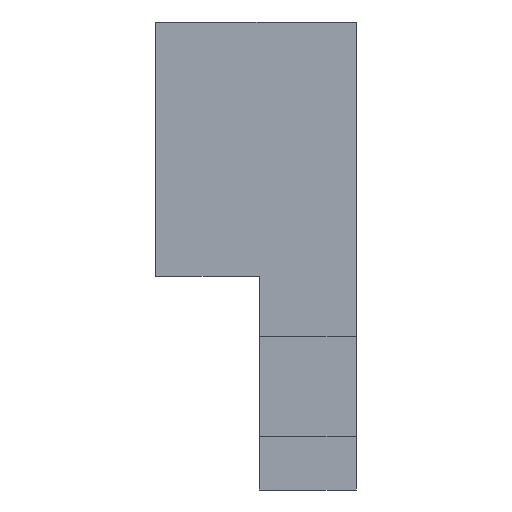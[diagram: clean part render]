
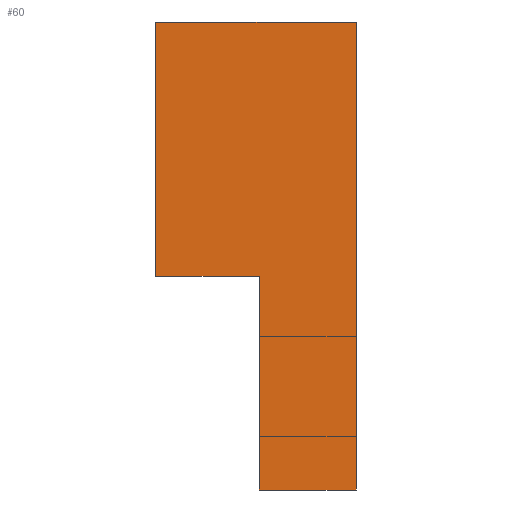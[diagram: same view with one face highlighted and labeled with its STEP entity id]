
A CAD part, left-side view. The second image highlights one B-rep face of the part: STEP entity #60.
In plain terms, the highlighted planar face has unit normal (-1, 0, 0).
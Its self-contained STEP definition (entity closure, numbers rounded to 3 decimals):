
#60=ADVANCED_FACE('',(#92),#1152,.T.);
#92=FACE_OUTER_BOUND('',#128,.T.);
#128=EDGE_LOOP('',(#237,#238,#239,#240,#241,#242));
#237=ORIENTED_EDGE('',*,*,#831,.T.);
#238=ORIENTED_EDGE('',*,*,#832,.T.);
#239=ORIENTED_EDGE('',*,*,#833,.T.);
#240=ORIENTED_EDGE('',*,*,#834,.T.);
#241=ORIENTED_EDGE('',*,*,#835,.T.);
#242=ORIENTED_EDGE('',*,*,#836,.T.);
#453=PCURVE('',#1152,#621);
#454=PCURVE('',#1152,#622);
#455=PCURVE('',#1152,#623);
#456=PCURVE('',#1152,#624);
#457=PCURVE('',#1152,#625);
#458=PCURVE('',#1152,#626);
#460=PCURVE('',#1153,#628);
#464=PCURVE('',#1154,#632);
#477=PCURVE('',#1155,#645);
#481=PCURVE('',#1156,#649);
#485=PCURVE('',#1157,#653);
#496=PCURVE('',#1158,#664);
#621=DEFINITIONAL_REPRESENTATION('',(#982),#2126);
#622=DEFINITIONAL_REPRESENTATION('',(#984),#2126);
#623=DEFINITIONAL_REPRESENTATION('',(#986),#2126);
#624=DEFINITIONAL_REPRESENTATION('',(#988),#2126);
#625=DEFINITIONAL_REPRESENTATION('',(#990),#2126);
#626=DEFINITIONAL_REPRESENTATION('',(#992),#2126);
#628=DEFINITIONAL_REPRESENTATION('',(#995),#2126);
#632=DEFINITIONAL_REPRESENTATION('',(#1000),#2126);
#645=DEFINITIONAL_REPRESENTATION('',(#1014),#2126);
#649=DEFINITIONAL_REPRESENTATION('',(#1020),#2126);
#653=DEFINITIONAL_REPRESENTATION('',(#1025),#2126);
#664=DEFINITIONAL_REPRESENTATION('',(#1036),#2126);
#747=SURFACE_CURVE('',#981,(#453,#481),.PCURVE_S1.);
#748=SURFACE_CURVE('',#983,(#454,#485),.PCURVE_S1.);
#749=SURFACE_CURVE('',#985,(#455,#477),.PCURVE_S1.);
#750=SURFACE_CURVE('',#987,(#456,#464),.PCURVE_S1.);
#751=SURFACE_CURVE('',#989,(#457,#460),.PCURVE_S1.);
#752=SURFACE_CURVE('',#991,(#458,#496),.PCURVE_S1.);
#831=EDGE_CURVE('',#1105,#1106,#747,.T.);
#832=EDGE_CURVE('',#1106,#1107,#748,.T.);
#833=EDGE_CURVE('',#1107,#1108,#749,.T.);
#834=EDGE_CURVE('',#1108,#1109,#750,.T.);
#835=EDGE_CURVE('',#1109,#1110,#751,.T.);
#836=EDGE_CURVE('',#1110,#1105,#752,.T.);
#981=B_SPLINE_CURVE_WITH_KNOTS('',1,(#1795,#1796),.UNSPECIFIED.,.F.,.F.,
(2,2),(-46.4,-43.3),.UNSPECIFIED.);
#982=B_SPLINE_CURVE_WITH_KNOTS('',1,(#1797,#1798),.UNSPECIFIED.,.F.,.F.,
(2,2),(-46.4,-43.3),.UNSPECIFIED.);
#983=B_SPLINE_CURVE_WITH_KNOTS('',1,(#1799,#1800),.UNSPECIFIED.,.F.,.F.,
(2,2),(-43.3,-36.9),.UNSPECIFIED.);
#984=B_SPLINE_CURVE_WITH_KNOTS('',1,(#1801,#1802),.UNSPECIFIED.,.F.,.F.,
(2,2),(-43.3,-36.9),.UNSPECIFIED.);
#985=B_SPLINE_CURVE_WITH_KNOTS('',1,(#1803,#1804),.UNSPECIFIED.,.F.,.F.,
(2,2),(-36.9,-34.),.UNSPECIFIED.);
#986=B_SPLINE_CURVE_WITH_KNOTS('',1,(#1805,#1806),.UNSPECIFIED.,.F.,.F.,
(2,2),(-36.9,-34.),.UNSPECIFIED.);
#987=B_SPLINE_CURVE_WITH_KNOTS('',1,(#1807,#1808),.UNSPECIFIED.,.F.,.F.,
(2,2),(-34.,-20.),.UNSPECIFIED.);
#988=B_SPLINE_CURVE_WITH_KNOTS('',1,(#1809,#1810),.UNSPECIFIED.,.F.,.F.,
(2,2),(-34.,-20.),.UNSPECIFIED.);
#989=B_SPLINE_CURVE_WITH_KNOTS('',1,(#1811,#1812),.UNSPECIFIED.,.F.,.F.,
(2,2),(-20.,-14.),.UNSPECIFIED.);
#990=B_SPLINE_CURVE_WITH_KNOTS('',1,(#1813,#1814),.UNSPECIFIED.,.F.,.F.,
(2,2),(-20.,-14.),.UNSPECIFIED.);
#991=B_SPLINE_CURVE_WITH_KNOTS('',1,(#1815,#1816),.UNSPECIFIED.,.F.,.F.,
(2,2),(-14.,-6.4),.UNSPECIFIED.);
#992=B_SPLINE_CURVE_WITH_KNOTS('',1,(#1817,#1818),.UNSPECIFIED.,.F.,.F.,
(2,2),(-14.,-6.4),.UNSPECIFIED.);
#995=B_SPLINE_CURVE_WITH_KNOTS('',1,(#1823,#1824),.UNSPECIFIED.,.F.,.F.,
(2,2),(-20.,-14.),.UNSPECIFIED.);
#1000=B_SPLINE_CURVE_WITH_KNOTS('',1,(#1833,#1834),.UNSPECIFIED.,.F.,.F.,
(2,2),(-34.,-20.),.UNSPECIFIED.);
#1014=B_SPLINE_CURVE_WITH_KNOTS('',1,(#1915,#1916),.UNSPECIFIED.,.F.,.F.,
(2,2),(-36.9,-34.),.UNSPECIFIED.);
#1020=B_SPLINE_CURVE_WITH_KNOTS('',1,(#1927,#1928),.UNSPECIFIED.,.F.,.F.,
(2,2),(-46.4,-43.3),.UNSPECIFIED.);
#1025=B_SPLINE_CURVE_WITH_KNOTS('',1,(#1937,#1938),.UNSPECIFIED.,.F.,.F.,
(2,2),(-43.3,-36.9),.UNSPECIFIED.);
#1036=B_SPLINE_CURVE_WITH_KNOTS('',1,(#2039,#2040),.UNSPECIFIED.,.F.,.F.,
(2,2),(-14.,-6.4),.UNSPECIFIED.);
#1105=VERTEX_POINT('',#1749);
#1106=VERTEX_POINT('',#1750);
#1107=VERTEX_POINT('',#1751);
#1108=VERTEX_POINT('',#1752);
#1109=VERTEX_POINT('',#1753);
#1110=VERTEX_POINT('',#1754);
#1152=PLANE('',#1188);
#1153=PLANE('',#1189);
#1154=PLANE('',#1190);
#1155=PLANE('',#1191);
#1156=PLANE('',#1192);
#1157=PLANE('',#1193);
#1158=PLANE('',#1194);
#1188=AXIS2_PLACEMENT_3D('',#1672,#1207,$);
#1189=AXIS2_PLACEMENT_3D('',#1673,#1208,$);
#1190=AXIS2_PLACEMENT_3D('',#1674,#1209,$);
#1191=AXIS2_PLACEMENT_3D('',#1675,#1210,$);
#1192=AXIS2_PLACEMENT_3D('',#1676,#1211,$);
#1193=AXIS2_PLACEMENT_3D('',#1677,#1212,$);
#1194=AXIS2_PLACEMENT_3D('',#1678,#1213,$);
#1207=DIRECTION('',(-1.,0.,0.));
#1208=DIRECTION('',(0.,0.,1.));
#1209=DIRECTION('',(0.,-1.,0.));
#1210=DIRECTION('',(0.,0.,-1.));
#1211=DIRECTION('',(0.,0.,-1.));
#1212=DIRECTION('',(0.,1.,0.));
#1213=DIRECTION('',(0.,1.,0.));
#1672=CARTESIAN_POINT('',(-805.37,-532.94,123.76));
#1673=CARTESIAN_POINT('',(-782.37,-533.,137.9));
#1674=CARTESIAN_POINT('',(-782.37,-539.,137.9));
#1675=CARTESIAN_POINT('',(-782.37,-539.,123.9));
#1676=CARTESIAN_POINT('',(-782.37,-533.,130.3));
#1677=CARTESIAN_POINT('',(-782.37,-536.1,130.3));
#1678=CARTESIAN_POINT('',(-782.37,-533.,123.9));
#1749=CARTESIAN_POINT('',(-805.37,-533.,130.3));
#1750=CARTESIAN_POINT('',(-805.37,-536.1,130.3));
#1751=CARTESIAN_POINT('',(-805.37,-536.1,123.9));
#1752=CARTESIAN_POINT('',(-805.37,-539.,123.9));
#1753=CARTESIAN_POINT('',(-805.37,-539.,137.9));
#1754=CARTESIAN_POINT('',(-805.37,-533.,137.9));
#1795=CARTESIAN_POINT('',(-805.37,-533.,130.3));
#1796=CARTESIAN_POINT('',(-805.37,-536.1,130.3));
#1797=CARTESIAN_POINT('',(0.,0.));
#1798=CARTESIAN_POINT('',(3.1,0.));
#1799=CARTESIAN_POINT('',(-805.37,-536.1,130.3));
#1800=CARTESIAN_POINT('',(-805.37,-536.1,123.9));
#1801=CARTESIAN_POINT('',(3.1,0.));
#1802=CARTESIAN_POINT('',(3.1,-6.4));
#1803=CARTESIAN_POINT('',(-805.37,-536.1,123.9));
#1804=CARTESIAN_POINT('',(-805.37,-539.,123.9));
#1805=CARTESIAN_POINT('',(3.1,-6.4));
#1806=CARTESIAN_POINT('',(6.,-6.4));
#1807=CARTESIAN_POINT('',(-805.37,-539.,123.9));
#1808=CARTESIAN_POINT('',(-805.37,-539.,137.9));
#1809=CARTESIAN_POINT('',(6.,-6.4));
#1810=CARTESIAN_POINT('',(6.,7.6));
#1811=CARTESIAN_POINT('',(-805.37,-539.,137.9));
#1812=CARTESIAN_POINT('',(-805.37,-533.,137.9));
#1813=CARTESIAN_POINT('',(6.,7.6));
#1814=CARTESIAN_POINT('',(0.,7.6));
#1815=CARTESIAN_POINT('',(-805.37,-533.,137.9));
#1816=CARTESIAN_POINT('',(-805.37,-533.,130.3));
#1817=CARTESIAN_POINT('',(0.,7.6));
#1818=CARTESIAN_POINT('',(0.,0.));
#1823=CARTESIAN_POINT('',(23.,20.));
#1824=CARTESIAN_POINT('',(23.,14.));
#1833=CARTESIAN_POINT('',(23.,34.));
#1834=CARTESIAN_POINT('',(23.,20.));
#1915=CARTESIAN_POINT('',(23.,36.9));
#1916=CARTESIAN_POINT('',(23.,34.));
#1927=CARTESIAN_POINT('',(6.4,23.));
#1928=CARTESIAN_POINT('',(9.5,23.));
#1937=CARTESIAN_POINT('',(9.5,23.));
#1938=CARTESIAN_POINT('',(15.9,23.));
#2039=CARTESIAN_POINT('',(23.,14.));
#2040=CARTESIAN_POINT('',(23.,6.4));
#2126=(
GEOMETRIC_REPRESENTATION_CONTEXT(2)
PARAMETRIC_REPRESENTATION_CONTEXT()
REPRESENTATION_CONTEXT('pspace','')
);
